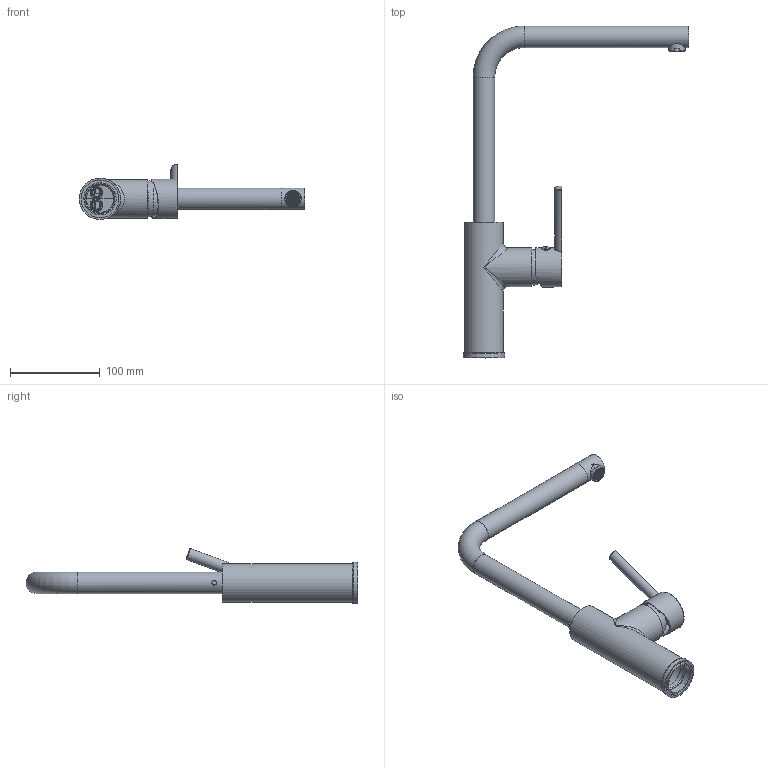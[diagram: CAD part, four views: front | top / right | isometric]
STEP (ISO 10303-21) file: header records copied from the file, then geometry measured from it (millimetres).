
FILE_DESCRIPTION (( 'STEP AP203' ), '1' );
FILE_NAME ('33EP01602.STEP', '2025-06-03T08:51:52', ( '' ), ( '' ), 'SwSTEP 2.0', 'SolidWorks 2021', '' );
FILE_SCHEMA (( 'CONFIG_CONTROL_DESIGN' ));
Length unit declared in the file: millimetre
Products named in the file (1): 33EP01602
Bounding box: 250.95 x 369.75 x 61.07 mm (x, y, z)
Volume: 124439.6 mm3; surface area: 142579.6 mm2
Topology: 8 solids, 8 shells, 710 faces, 1882 edges, 1198 vertices
Faces by surface type: plane 463, cylinder 132, bspline 49, cone 39, torus 16, sphere 11
Full cylindrical faces by diameter (mm): 4.2 x1, 5 x1, 5.1 x2, 6.8 x1, 8 x3, 9 x4, 9.5 x1, 10 x1, 10.6 x2, 11.3 x2, 12 x1, 13 x1, 13.3 x1, 13.95 x2, 14.3 x1, 15 x1, 15.3 x2, 16.5 x2, 17 x2, 18 x2, 18.5 x1, 19.5 x1, 21.5 x1, 22.4 x2, 23 x1, 24 x2, 24.5 x1, 29 x1, 30.5 x1, 31 x1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
Entity records: 27318 total; most frequent: CARTESIAN_POINT 10756, ORIENTED_EDGE 3450, DIRECTION 3046, EDGE_CURVE 1725, VECTOR 1218, LINE 1218, VERTEX_POINT 1160, EDGE_LOOP 971
